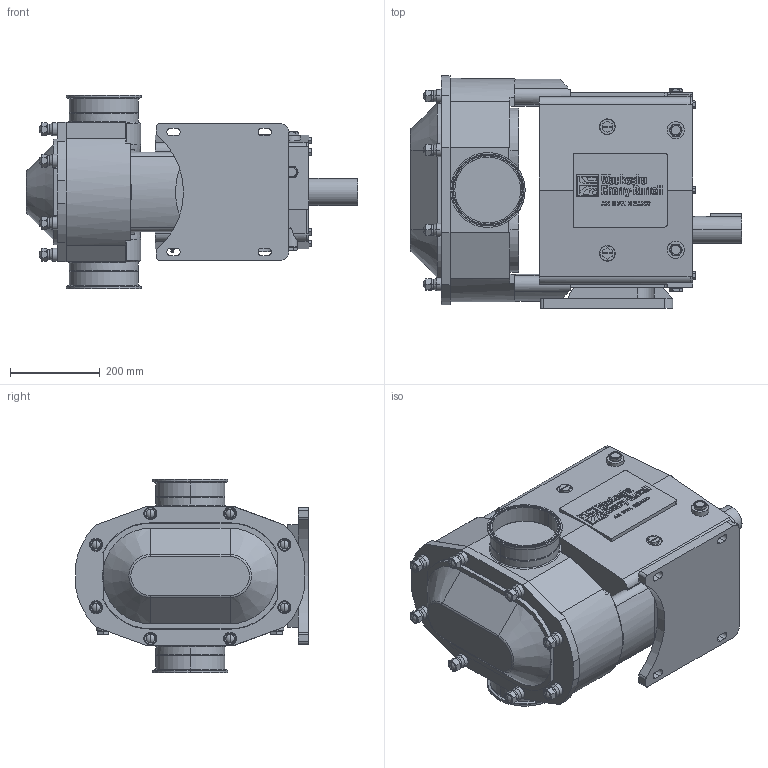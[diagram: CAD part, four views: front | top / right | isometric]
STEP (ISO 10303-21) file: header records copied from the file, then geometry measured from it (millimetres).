
FILE_DESCRIPTION (( 'STEP AP203' ), '1' );
FILE_NAME ('Joined_370_U2_Lower Shaft.STEP', '2008-03-25T15:31:19', ( ' ' ), ( ' ' ), 'SwSTEP 2.0', 'SolidWorks 2006104', '' );
FILE_SCHEMA (( 'CONFIG_CONTROL_DESIGN' ));
Length unit declared in the file: inch
Products named in the file (1): Joined_370_U2_Lower Shaft
Bounding box: 739.52 x 519.02 x 431.8 mm (x, y, z)
Volume: 66208114.4 mm3; surface area: 1633903.3 mm2
Topology: 1 solids, 31 shells, 1512 faces, 3671 edges, 2321 vertices
Faces by surface type: plane 761, cylinder 325, cone 245, bspline 104, torus 61, sphere 16
Entity records: 51824 total; most frequent: CARTESIAN_POINT 17198, ORIENTED_EDGE 7222, DIRECTION 6856, EDGE_CURVE 3611, AXIS2_PLACEMENT_3D 2351, VERTEX_POINT 2321, VECTOR 2154, LINE 2154
